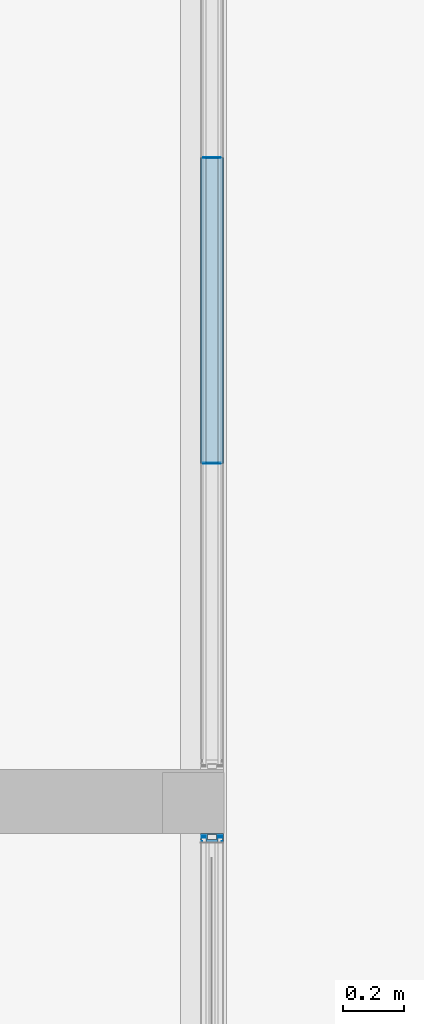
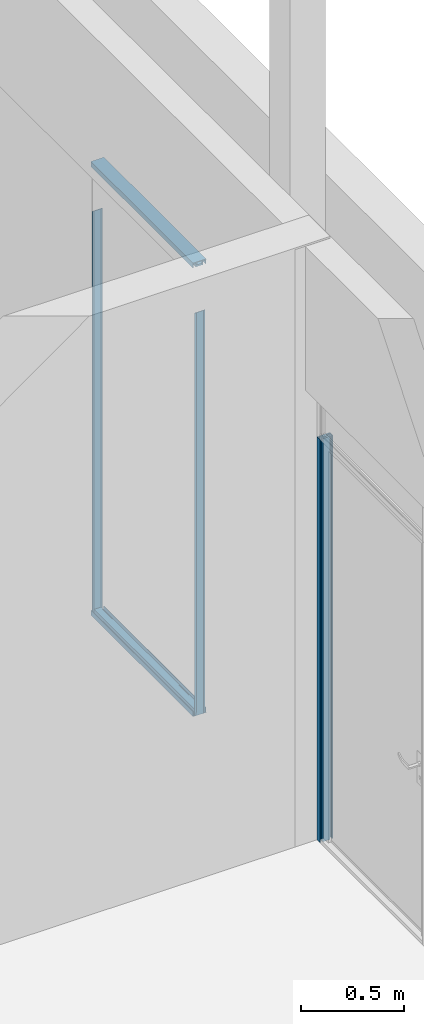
# One storey, part 13 of 65: 8 building element parts, 7 elements without a shape of their own.
"""IFC2X3 building model written with IfcOpenShell, lengths in millimetres."""

from ifc_helpers import new_model, entity, si_unit, converted_unit, derived_unit, money_unit, direction, frame, origin_with_axes, place, context, subcontext, project, spatial, faceted_brep, source, transform, mapped, material, type_object, element, aggregate, save


model = new_model("IFC2X3")

# Units and contexts
model_context = context("Model", 3, precision=0.01, world=origin_with_axes(), true_north=direction((0.0, 1.0)))
body_context = subcontext(model_context, "Body", "Model", "MODEL_VIEW")
ifc_project = project(units=[si_unit("LENGTHUNIT", "METRE", prefix="MILLI"), si_unit("AREAUNIT", "SQUARE_METRE"), si_unit("VOLUMEUNIT", "CUBIC_METRE"), converted_unit("PLANEANGLEUNIT", "DEGREE", entity("IfcPlaneAngleMeasure", 0.0174532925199), si_unit("PLANEANGLEUNIT", "RADIAN"), dimensions=[0, 0, 0, 0, 0, 0, 0]), si_unit("SOLIDANGLEUNIT", "STERADIAN"), money_unit("EUR"), converted_unit("TIMEUNIT", "Year", entity("IfcTimeMeasure", 31556926.0), si_unit("TIMEUNIT", "SECOND"), dimensions=[0, 0, 1, 0, 0, 0, 0]), si_unit("MASSUNIT", "GRAM", prefix="KILO"), si_unit("THERMODYNAMICTEMPERATUREUNIT", "DEGREE_CELSIUS"), si_unit("LUMINOUSINTENSITYUNIT", "LUMEN"), si_unit("ENERGYUNIT", "JOULE", prefix="MEGA"), derived_unit("THERMALCONDUCTANCEUNIT", [(si_unit("POWERUNIT", "WATT"), 1), (si_unit("LENGTHUNIT", "METRE"), -1), (si_unit("THERMODYNAMICTEMPERATUREUNIT", "KELVIN"), -1)]), derived_unit("SPECIFICHEATCAPACITYUNIT", [(si_unit("ENERGYUNIT", "JOULE"), 1), (si_unit("MASSUNIT", "GRAM", prefix="KILO"), -1), (si_unit("THERMODYNAMICTEMPERATUREUNIT", "KELVIN"), -1)]), derived_unit("MASSDENSITYUNIT", [(si_unit("MASSUNIT", "GRAM", prefix="KILO"), 1), (si_unit("VOLUMEUNIT", "CUBIC_METRE"), -1)])], contexts=[model_context])

# Site, building, storey
site_placement = place(None, origin_with_axes())
site = spatial("IfcSite", under=ifc_project, at=site_placement, Name="Puškini 31, Narva", CompositionType="ELEMENT")
building_placement = place(site_placement, origin_with_axes())
building = spatial("IfcBuilding", under=site, at=building_placement, Name="Narva Riigigümnaasium", CompositionType="ELEMENT")
storey_placement = place(building_placement, frame((0.0, 0.0, -1320.0), z_axis=(0.0, 0.0, 1.0), x_axis=(1.0, 0.0, 0.0)))
storey = spatial("IfcBuildingStorey", under=building, at=storey_placement, Name="1.korrus -1.32", CompositionType="ELEMENT", Elevation=-1320.0)

# Curtain wall, members, building element parts
curtain_wall_type = type_object("IfcCurtainWallType", Name="Curtain Wall Type", PredefinedType="NOTDEFINED")
curtain_wall_1_placement = place(storey_placement, frame((30362.9999988, 168706.249936, -1.99739158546e-06), z_axis=(0.0, 0.0, 1.0), x_axis=(1.0, 0.0, 0.0)))
curtain_wall_1 = element("IfcCurtainWall", 1, at=curtain_wall_1_placement, inside=storey, type_object=curtain_wall_type, Name="G-SKLF-05")
member_type_1 = type_object("IfcMemberType", Name="Siseklaasfassaad - Raam n2htamatu 3 x 29", PredefinedType="MULLION")
member_1_placement = place(curtain_wall_1_placement, frame((0.0, -498.75, 0.0), z_axis=(0.0, 0.0, 1.0), x_axis=(0.0, -1.0, 0.0)))
member_1 = element("IfcMember", 2, at=member_1_placement, type_object=member_type_1, Name="G-SKLF-05-klaasidevaheline tihend", ObjectType="MULLION")
ifc_material_1 = material(Name="Klaas")
shared_shape_1 = source(origin_with_axes(), body_context, "Body", "Brep", [
    faceted_brep([(-1.50001386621, 20.0064497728, 30.0000193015), (-1.5000138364, 20.0064497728, 2400.0000456), (-1.5000138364, 29.0064496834, 2400.0000456), (-1.50001386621, 29.0064496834, 30.0000193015), (0.0, 20.0064497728, 0.0), (1.49998613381, 20.0064497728, 30.0000193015), (1.4999861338, 20.0064497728, 2400.0000456), (1.4999861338, 29.0064496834, 2400.0000456), (0.0, 29.0064496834, 0.0), (1.49998613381, 29.0064496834, 30.0000193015)], [[[0, 1, 2, 3]], [[4, 5, 6, 1, 0]], [[1, 6, 7, 2]], [[8, 3, 2, 7, 9]], [[8, 4, 0, 3]], [[9, 5, 4, 8]], [[9, 7, 6, 5]]]),
    faceted_brep([(-1.50001386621, -28.9935503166, 30.0000193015), (-1.5000138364, -28.9935503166, 2400.0000456), (-1.5000138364, -19.993550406, 2400.0000456), (-1.50001386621, -19.993550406, 30.0000193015), (0.0, -28.9935503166, 0.0), (1.49998613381, -28.9935503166, 30.0000193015), (1.4999861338, -28.9935503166, 2400.0000456), (1.4999861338, -19.993550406, 2400.0000456), (0.0, -19.993550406, 0.0), (1.49998613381, -19.993550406, 30.0000193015)], [[[0, 1, 2, 3]], [[4, 5, 6, 1, 0]], [[6, 7, 2, 1]], [[8, 3, 2, 7, 9]], [[8, 4, 0, 3]], [[9, 5, 4, 8]], [[9, 7, 6, 5]]]),
])
building_element_part_1_placement = place(member_1_placement, origin_with_axes())
building_element_part_1 = element("IfcBuildingElementPart", 3, at=building_element_part_1_placement, material=ifc_material_1, Name="Klaas", context=body_context, shape_type="MappedRepresentation", body=[
    mapped(shared_shape_1, transform((0.0, 0.0, 0.0), x_axis=(-1.0, 0.0, 0.0), y_axis=(0.0, -1.0, 0.0), z_axis=(0.0, 0.0, 1.0))),
])
member_2_placement = place(curtain_wall_1_placement, frame((0.0, 498.75, 0.0), z_axis=(0.0, 0.0, 1.0), x_axis=(0.0, -1.0, 0.0)))
member_2 = element("IfcMember", 4, at=member_2_placement, type_object=member_type_1, Name="G-SKLF-05-klaasidevaheline tihend", ObjectType="MULLION")
building_element_part_2_placement = place(member_2_placement, origin_with_axes())
building_element_part_2 = element("IfcBuildingElementPart", 5, at=building_element_part_2_placement, material=ifc_material_1, Name="Klaas", context=body_context, shape_type="MappedRepresentation", body=[
    mapped(shared_shape_1, transform((0.0, 0.0, 0.0), x_axis=(-1.0, 0.0, 0.0), y_axis=(0.0, -1.0, 0.0), z_axis=(0.0, 0.0, 1.0))),
])
ifc_material_2 = material(Name="VKR-06_Õhkvahe")
shared_shape_2 = source(origin_with_axes(), body_context, "Body", "Brep", [
    faceted_brep([(-1.50001386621, -19.9935503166, 30.0000193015), (-1.5000138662, -19.9935503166, 2400.0000456), (-1.5000138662, 20.0064496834, 2400.0000456), (-1.50001386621, 20.0064496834, 30.0000193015), (0.0, -19.9935503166, 0.0), (1.49998613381, -19.9935503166, 30.0000193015), (1.4999861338, -19.9935503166, 2400.0000456), (1.4999861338, 20.0064496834, 2400.0000456), (0.0, 20.0064496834, 0.0), (1.49998613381, 20.0064496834, 30.0000193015)], [[[0, 1, 2, 3]], [[4, 5, 6, 1, 0]], [[6, 7, 2, 1]], [[8, 3, 2, 7, 9]], [[8, 4, 0, 3]], [[9, 5, 4, 8]], [[9, 7, 6, 5]]]),
])
building_element_part_3_placement = place(member_1_placement, origin_with_axes())
building_element_part_3 = element("IfcBuildingElementPart", 6, at=building_element_part_3_placement, material=ifc_material_2, Name="VKR-06_Õhkvahe", context=body_context, shape_type="MappedRepresentation", body=[
    mapped(shared_shape_2, transform((0.0, 0.0, 0.0), x_axis=(-1.0, 0.0, 0.0), y_axis=(0.0, -1.0, 0.0), z_axis=(0.0, 0.0, 1.0))),
])
aggregate(member_1, [building_element_part_1, building_element_part_3])
building_element_part_4_placement = place(member_2_placement, origin_with_axes())
building_element_part_4 = element("IfcBuildingElementPart", 7, at=building_element_part_4_placement, material=ifc_material_2, Name="VKR-06_Õhkvahe", context=body_context, shape_type="MappedRepresentation", body=[
    mapped(shared_shape_2, transform((0.0, 0.0, 0.0), x_axis=(-1.0, 0.0, 0.0), y_axis=(0.0, -1.0, 0.0), z_axis=(0.0, 0.0, 1.0))),
])
aggregate(member_2, [building_element_part_2, building_element_part_4])
member_type_2 = type_object("IfcMemberType", Name="Boundary Frame 30 x 37", PredefinedType="MULLION")
member_3_placement = place(curtain_wall_1_placement, frame((0.0, -498.75, 2700.00009054), z_axis=(0.0, 1.0, 0.0), x_axis=(0.0, 0.0, 1.0)))
member_3 = element("IfcMember", 8, at=member_3_placement, type_object=member_type_2, Name="G-SKLF-13-raam", ObjectType="MULLION")
ifc_material_3 = material(Name="Teras RAL7012")
shared_shape_3 = source(origin_with_axes(), body_context, "Body", "Brep", [
    faceted_brep([(29.5999996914, -17.0000000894, 1.47998535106), (29.5999996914, -17.0000000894, 996.019987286), (0.0, -17.0000000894, 997.5), (0.0, -17.0000000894, 0.0), (29.5999996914, 17.0000000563, 1.47998535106), (29.5999996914, 17.0000000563, 996.019987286), (0.0, 17.0000000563, 997.5), (1.9999999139, 15.0000001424, 997.399999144), (18.7999996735, 15.0000001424, 996.559991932), (18.7999996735, -15.0000001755, 996.559991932), (1.9999999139, -15.0000001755, 997.399999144), (0.0, 17.0000000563, 0.0), (1.9999999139, 15.0000001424, 0.0999990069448), (1.9999999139, -15.0000001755, 0.0999990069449), (18.7999996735, -15.0000001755, 0.939990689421), (18.7999996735, 15.0000001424, 0.939990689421)], [[[0, 1, 2, 3]], [[4, 5, 1, 0]], [[2, 1, 5, 6], [7, 8, 9, 10]], [[3, 2, 6, 11]], [[3, 11, 4, 0], [12, 13, 14, 15]], [[11, 6, 5, 4]], [[15, 8, 7, 12]], [[14, 9, 8, 15]], [[13, 10, 9, 14]], [[12, 7, 10, 13]]]),
    faceted_brep([(29.5999996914, 17.0000000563, 1.47998535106), (29.5999996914, 17.0000000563, 996.019987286), (0.0, 17.0, 997.5), (0.0, 17.0, 0.0), (30.0000193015, 17.0, 1.49998613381), (30.0000193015, 17.0, 995.999986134), (30.0000193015, 20.0, 995.999986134), (13.8499999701, 20.000000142, 996.807494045), (7.49999999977, 20.0, 997.124996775), (7.49999999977, 34.0161444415, 997.124996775), (13.8499999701, 34.0161444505, 996.807494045), (24.987414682, 34.0161444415, 996.25061852), (28.5126239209, 34.0161444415, 996.074356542), (30.0000193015, 34.0161444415, 995.999986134), (30.0000193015, 37.0, 995.999986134), (0.0, 37.0, 997.5), (0.0, 37.0, 0.0), (30.0000193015, 37.0, 1.49998613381), (30.0000193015, 34.0161444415, 1.49998613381), (28.5126239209, 34.0161444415, 1.42561710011), (24.987414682, 34.0161444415, 1.24935838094), (13.8499999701, 34.0161444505, 0.69249315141), (7.49999999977, 34.0161444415, 0.374996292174), (7.49999999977, 20.0, 0.374996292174), (13.8499999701, 20.000000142, 0.69249315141), (30.0000193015, 20.0, 1.49998613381)], [[[0, 1, 2, 3]], [[4, 5, 1, 0]], [[2, 1, 5, 6, 7, 8, 9, 10, 11, 12, 13, 14, 15]], [[3, 2, 15, 16]], [[3, 16, 17, 18, 19, 20, 21, 22, 23, 24, 25, 4, 0]], [[25, 6, 5, 4]], [[24, 7, 6, 25]], [[23, 8, 7, 24]], [[22, 9, 8, 23]], [[21, 10, 9, 22]], [[20, 11, 10, 21]], [[19, 12, 11, 20]], [[18, 13, 12, 19]], [[17, 14, 13, 18]], [[16, 15, 14, 17]]]),
    faceted_brep([(0.0, -37.0, 0.0), (0.0, -37.0, 997.5), (0.0, -17.0, 997.5), (0.0, -17.0, 0.0), (30.0000193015, -37.0, 1.49998613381), (30.0000193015, -37.0, 995.999986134), (30.0000193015, -34.0161444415, 995.999986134), (28.5126239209, -34.0161444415, 996.074356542), (24.987414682, -34.0161444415, 996.25061852), (13.8499999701, -34.0161445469, 996.807494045), (7.49999999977, -34.0161444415, 997.124996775), (7.49999999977, -20.0, 997.124996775), (13.8499999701, -19.9999997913, 996.807494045), (30.0000193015, -20.0, 995.999986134), (30.0000193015, -17.0, 995.999986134), (29.5999996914, -17.0000000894, 996.019987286), (29.5999996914, -17.0000000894, 1.47998535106), (30.0000193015, -17.0, 1.49998613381), (30.0000193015, -20.0, 1.49998613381), (13.8499999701, -19.9999997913, 0.69249315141), (7.49999999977, -20.0, 0.374996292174), (7.49999999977, -34.0161444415, 0.374996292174), (13.8499999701, -34.0161445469, 0.69249315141), (24.987414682, -34.0161444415, 1.24935838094), (28.5126239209, -34.0161444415, 1.42561710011), (30.0000193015, -34.0161444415, 1.49998613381)], [[[0, 1, 2, 3]], [[4, 5, 1, 0]], [[2, 1, 5, 6, 7, 8, 9, 10, 11, 12, 13, 14, 15]], [[3, 2, 15, 16]], [[3, 16, 17, 18, 19, 20, 21, 22, 23, 24, 25, 4, 0]], [[25, 6, 5, 4]], [[24, 7, 6, 25]], [[23, 8, 7, 24]], [[22, 9, 8, 23]], [[21, 10, 9, 22]], [[20, 11, 10, 21]], [[19, 12, 11, 20]], [[18, 13, 12, 19]], [[17, 14, 13, 18]], [[16, 15, 14, 17]]]),
])
building_element_part_5_placement = place(member_3_placement, origin_with_axes())
building_element_part_5 = element("IfcBuildingElementPart", 9, at=building_element_part_5_placement, material=ifc_material_3, Name="Teras RAL7012", context=body_context, shape_type="MappedRepresentation", body=[
    mapped(shared_shape_3, transform((0.0, 0.0, 0.0), x_axis=(-1.0, 0.0, 0.0), y_axis=(0.0, -1.0, 0.0), z_axis=(0.0, 0.0, 1.0))),
])
aggregate(member_3, [building_element_part_5])
member_4_placement = place(curtain_wall_1_placement, frame((0.0, -498.75, 0.0), z_axis=(0.0, 1.0, 0.0), x_axis=(0.0, 0.0, 1.0)))
member_4 = element("IfcMember", 10, at=member_4_placement, type_object=member_type_2, Name="G-SKLF-06-raam", ObjectType="MULLION")
aggregate(curtain_wall_1, [member_1, member_3, member_4, member_2])
shared_shape_4 = source(origin_with_axes(), body_context, "Body", "Brep", [
    faceted_brep([(-29.5999996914, -17.0000000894, 1.47998535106), (0.0, -17.0000000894, 0.0), (0.0, -17.0000000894, 997.5), (-29.5999996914, -17.0000000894, 996.019987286), (-29.5999996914, 17.0000000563, 1.47998535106), (0.0, 17.0000000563, 0.0), (-1.9999999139, 15.0000001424, 0.0999990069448), (-18.7999996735, 15.0000001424, 0.939990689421), (-18.7999996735, -15.0000001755, 0.939990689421), (-1.9999999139, -15.0000001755, 0.0999990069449), (0.0, 17.0000000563, 997.5), (-29.5999996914, 17.0000000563, 996.019987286), (-1.9999999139, 15.0000001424, 997.399999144), (-1.9999999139, -15.0000001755, 997.399999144), (-18.7999996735, -15.0000001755, 996.559991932), (-18.7999996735, 15.0000001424, 996.559991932)], [[[0, 1, 2, 3]], [[1, 0, 4, 5], [6, 7, 8, 9]], [[1, 5, 10, 2]], [[2, 10, 11, 3], [12, 13, 14, 15]], [[4, 0, 3, 11]], [[5, 4, 11, 10]], [[7, 6, 12, 15]], [[8, 7, 15, 14]], [[9, 8, 14, 13]], [[6, 9, 13, 12]]]),
    faceted_brep([(-29.5999996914, 17.0000000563, 1.47998535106), (0.0, 17.0, 0.0), (0.0, 17.0, 997.5), (-29.5999996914, 17.0000000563, 996.019987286), (-30.0000193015, 17.0, 1.49998613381), (-30.0000193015, 20.0, 1.49998613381), (-13.8499999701, 20.000000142, 0.69249315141), (-7.49999999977, 20.0, 0.374996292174), (-7.49999999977, 34.0161444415, 0.374996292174), (-13.8499999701, 34.0161444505, 0.69249315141), (-24.987414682, 34.0161444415, 1.24935838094), (-28.5126239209, 34.0161444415, 1.42561710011), (-30.0000193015, 34.0161444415, 1.49998613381), (-30.0000193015, 37.0, 1.49998613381), (0.0, 37.0, 0.0), (0.0, 37.0, 997.5), (-30.0000193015, 37.0, 995.999986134), (-30.0000193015, 34.0161444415, 995.999986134), (-28.5126239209, 34.0161444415, 996.074356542), (-24.987414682, 34.0161444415, 996.25061852), (-13.8499999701, 34.0161444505, 996.807494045), (-7.49999999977, 34.0161444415, 997.124996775), (-7.49999999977, 20.0, 997.124996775), (-13.8499999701, 20.000000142, 996.807494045), (-30.0000193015, 20.0, 995.999986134), (-30.0000193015, 17.0, 995.999986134)], [[[0, 1, 2, 3]], [[1, 0, 4, 5, 6, 7, 8, 9, 10, 11, 12, 13, 14]], [[1, 14, 15, 2]], [[2, 15, 16, 17, 18, 19, 20, 21, 22, 23, 24, 25, 3]], [[4, 0, 3, 25]], [[5, 4, 25, 24]], [[6, 5, 24, 23]], [[7, 6, 23, 22]], [[8, 7, 22, 21]], [[9, 8, 21, 20]], [[10, 9, 20, 19]], [[11, 10, 19, 18]], [[12, 11, 18, 17]], [[13, 12, 17, 16]], [[14, 13, 16, 15]]]),
    faceted_brep([(0.0, -37.0, 0.0), (0.0, -17.0, 0.0), (0.0, -17.0, 997.5), (0.0, -37.0, 997.5), (-30.0000193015, -37.0, 1.49998613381), (-30.0000193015, -34.0161444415, 1.49998613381), (-28.5126239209, -34.0161444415, 1.42561710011), (-24.987414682, -34.0161444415, 1.24935838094), (-13.8499999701, -34.0161445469, 0.69249315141), (-7.49999999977, -34.0161444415, 0.374996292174), (-7.49999999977, -20.0, 0.374996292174), (-13.8499999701, -19.9999997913, 0.69249315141), (-30.0000193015, -20.0, 1.49998613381), (-30.0000193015, -17.0, 1.49998613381), (-29.5999996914, -17.0000000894, 1.47998535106), (-29.5999996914, -17.0000000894, 996.019987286), (-30.0000193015, -17.0, 995.999986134), (-30.0000193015, -20.0, 995.999986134), (-13.8499999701, -19.9999997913, 996.807494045), (-7.49999999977, -20.0, 997.124996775), (-7.49999999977, -34.0161444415, 997.124996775), (-13.8499999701, -34.0161445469, 996.807494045), (-24.987414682, -34.0161444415, 996.25061852), (-28.5126239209, -34.0161444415, 996.074356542), (-30.0000193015, -34.0161444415, 995.999986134), (-30.0000193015, -37.0, 995.999986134)], [[[0, 1, 2, 3]], [[1, 0, 4, 5, 6, 7, 8, 9, 10, 11, 12, 13, 14]], [[1, 14, 15, 2]], [[2, 15, 16, 17, 18, 19, 20, 21, 22, 23, 24, 25, 3]], [[4, 0, 3, 25]], [[5, 4, 25, 24]], [[6, 5, 24, 23]], [[7, 6, 23, 22]], [[8, 7, 22, 21]], [[9, 8, 21, 20]], [[10, 9, 20, 19]], [[11, 10, 19, 18]], [[12, 11, 18, 17]], [[13, 12, 17, 16]], [[14, 13, 16, 15]]]),
])
building_element_part_6_placement = place(member_4_placement, origin_with_axes())
building_element_part_6 = element("IfcBuildingElementPart", 11, at=building_element_part_6_placement, material=ifc_material_3, Name="Teras RAL7012", context=body_context, shape_type="MappedRepresentation", body=[
    mapped(shared_shape_4, transform((0.0, 0.0, 0.0), x_axis=(-1.0, 0.0, 0.0), y_axis=(0.0, -1.0, 0.0), z_axis=(0.0, 0.0, 1.0))),
])
aggregate(member_4, [building_element_part_6])

# Curtain wall, member, building element parts
curtain_wall_2_placement = place(storey_placement, frame((30362.9999988, 164066.428557, -5.96047033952e-06), z_axis=(0.0, 0.0, 1.0), x_axis=(1.0, 0.0, 0.0)))
curtain_wall_2 = element("IfcCurtainWall", 12, at=curtain_wall_2_placement, inside=storey, type_object=curtain_wall_type, Name="G-SKLF-04")
member_5_placement = place(curtain_wall_2_placement, frame((0.0, 2933.57140851, 0.0), z_axis=(0.0, 0.0, 1.0), x_axis=(0.0, -1.0, 0.0)))
member_5 = element("IfcMember", 13, at=member_5_placement, type_object=member_type_2, Name="G-SKLF-25-raam", ObjectType="MULLION")
aggregate(curtain_wall_2, [member_5])
ifc_material_4 = material(Name="Klaasvill")
shared_shape_5 = source(origin_with_axes(), body_context, "Body", "Brep", [
    faceted_brep([(7.49999990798, 20.000000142, 0.0), (13.8499999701, 20.000000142, 0.0), (13.8499999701, 20.000000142, 2400.00001337), (7.49999990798, 20.000000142, 2400.00001337), (7.49999990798, 34.0161444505, 0.0), (13.8499999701, 34.0161444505, 0.0), (13.8499999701, 34.0161444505, 2400.00001337), (7.49999990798, 34.0161444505, 2400.00001337)], [[[0, 1, 2, 3]], [[0, 4, 5, 1]], [[1, 5, 6, 2]], [[3, 2, 6, 7]], [[4, 0, 3, 7]], [[5, 4, 7, 6]]]),
    faceted_brep([(24.987414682, 34.0161444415, 0.0), (25.004489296, 32.0307503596, 0.0), (25.004489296, 32.0307503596, 2400.00001337), (24.987414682, 34.0161444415, 2400.00001337), (28.5126239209, 34.0161444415, 0.0), (28.7655837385, 33.0385325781, 0.0), (28.4955493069, 32.0307503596, 0.0), (27.75780152, 31.2930025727, 0.0), (26.7500193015, 31.0229681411, 0.0), (25.742237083, 31.2930025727, 0.0), (25.742237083, 31.2930025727, 2400.00001337), (26.7500193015, 31.0229681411, 2400.00001337), (27.75780152, 31.2930025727, 2400.00001337), (28.4955493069, 32.0307503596, 2400.00001337), (28.7655837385, 33.0385325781, 2400.00001337), (28.5126239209, 34.0161444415, 2400.00001337)], [[[0, 1, 2, 3]], [[0, 4, 5, 6, 7, 8, 9, 1]], [[1, 9, 10, 2]], [[3, 2, 10, 11, 12, 13, 14, 15]], [[4, 0, 3, 15]], [[5, 4, 15, 14]], [[6, 5, 14, 13]], [[7, 6, 13, 12]], [[8, 7, 12, 11]], [[9, 8, 11, 10]]]),
    faceted_brep([(7.49999990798, -19.9999997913, 0.0), (7.49999990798, -34.0161445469, 0.0), (7.49999990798, -34.0161445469, 2400.00001337), (7.49999990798, -19.9999997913, 2400.00001337), (13.8499999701, -19.9999997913, 0.0), (13.8499999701, -34.0161445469, 0.0), (13.8499999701, -34.0161445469, 2400.00001337), (13.8499999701, -19.9999997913, 2400.00001337)], [[[0, 1, 2, 3]], [[0, 4, 5, 1]], [[1, 5, 6, 2]], [[3, 2, 6, 7]], [[4, 0, 3, 7]], [[5, 4, 7, 6]]]),
    faceted_brep([(25.004489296, -32.0307503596, 0.0), (24.987414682, -34.0161444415, 0.0), (24.987414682, -34.0161444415, 2400.00001337), (25.004489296, -32.0307503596, 2400.00001337), (25.742237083, -31.2930025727, 0.0), (26.7500193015, -31.0229681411, 0.0), (27.75780152, -31.2930025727, 0.0), (28.4955493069, -32.0307503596, 0.0), (28.7655837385, -33.0385325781, 0.0), (28.5126239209, -34.0161444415, 0.0), (28.5126239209, -34.0161444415, 2400.00001337), (28.7655837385, -33.0385325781, 2400.00001337), (28.4955493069, -32.0307503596, 2400.00001337), (27.75780152, -31.2930025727, 2400.00001337), (26.7500193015, -31.0229681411, 2400.00001337), (25.742237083, -31.2930025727, 2400.00001337)], [[[0, 1, 2, 3]], [[0, 4, 5, 6, 7, 8, 9, 1]], [[1, 9, 10, 2]], [[3, 2, 10, 11, 12, 13, 14, 15]], [[4, 0, 3, 15]], [[5, 4, 15, 14]], [[6, 5, 14, 13]], [[7, 6, 13, 12]], [[8, 7, 12, 11]], [[9, 8, 11, 10]]]),
])
building_element_part_7_placement = place(member_5_placement, origin_with_axes())
building_element_part_7 = element("IfcBuildingElementPart", 14, at=building_element_part_7_placement, material=ifc_material_4, Name="Klaasvill", context=body_context, shape_type="MappedRepresentation", body=[
    mapped(shared_shape_5, transform((0.0, 0.0, 0.0))),
])
shared_shape_6 = source(origin_with_axes(), body_context, "Body", "Brep", [
    faceted_brep([(0.0, -17.0000000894, 0.0), (29.5999996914, -17.0000000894, 0.0), (29.5999996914, -17.0000000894, 2400.00001337), (0.0, -17.0000000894, 2400.00001337), (0.0, 17.0000000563, 0.0), (29.5999996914, 17.0000000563, 0.0), (1.9999999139, 15.0000001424, 0.0), (1.9999999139, -15.0000001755, 0.0), (18.7999996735, -15.0000001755, 0.0), (18.7999996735, 15.0000001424, 0.0), (29.5999996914, 17.0000000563, 2400.00001337), (0.0, 17.0000000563, 2400.00001337), (1.9999999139, 15.0000001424, 2400.00001337), (18.7999996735, 15.0000001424, 2400.00001337), (18.7999996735, -15.0000001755, 2400.00001337), (1.9999999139, -15.0000001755, 2400.00001337)], [[[0, 1, 2, 3]], [[0, 4, 5, 1], [6, 7, 8, 9]], [[1, 5, 10, 2]], [[3, 2, 10, 11], [12, 13, 14, 15]], [[4, 0, 3, 11]], [[5, 4, 11, 10]], [[7, 6, 12, 15]], [[8, 7, 15, 14]], [[9, 8, 14, 13]], [[6, 9, 13, 12]]]),
    faceted_brep([(0.0, 17.0, 0.0), (29.5999996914, 17.0000000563, 0.0), (29.5999996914, 17.0000000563, 2400.00001337), (0.0, 17.0, 2400.00001337), (0.0, 37.0, 0.0), (30.0000193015, 37.0, 0.0), (30.0000193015, 34.0161444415, 0.0), (28.5126239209, 34.0161444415, 0.0), (24.987414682, 34.0161444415, 0.0), (13.8499999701, 34.0161444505, 0.0), (7.49999999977, 34.0161444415, 0.0), (7.49999999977, 20.0, 0.0), (13.8499999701, 20.000000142, 0.0), (30.0000193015, 20.0, 0.0), (30.0000193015, 17.0, 0.0), (30.0000193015, 17.0, 2400.00001337), (30.0000193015, 20.0, 2400.00001337), (13.8499999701, 20.000000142, 2400.00001337), (7.49999999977, 20.0, 2400.00001337), (7.49999999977, 34.0161444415, 2400.00001337), (13.8499999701, 34.0161444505, 2400.00001337), (24.987414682, 34.0161444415, 2400.00001337), (28.5126239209, 34.0161444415, 2400.00001337), (30.0000193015, 34.0161444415, 2400.00001337), (30.0000193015, 37.0, 2400.00001337), (0.0, 37.0, 2400.00001337)], [[[0, 1, 2, 3]], [[0, 4, 5, 6, 7, 8, 9, 10, 11, 12, 13, 14, 1]], [[1, 14, 15, 2]], [[3, 2, 15, 16, 17, 18, 19, 20, 21, 22, 23, 24, 25]], [[4, 0, 3, 25]], [[5, 4, 25, 24]], [[6, 5, 24, 23]], [[7, 6, 23, 22]], [[8, 7, 22, 21]], [[9, 8, 21, 20]], [[10, 9, 20, 19]], [[11, 10, 19, 18]], [[12, 11, 18, 17]], [[13, 12, 17, 16]], [[14, 13, 16, 15]]]),
    faceted_brep([(0.0, -17.0, 0.0), (0.0, -37.0, 0.0), (0.0, -37.0, 2400.00001337), (0.0, -17.0, 2400.00001337), (29.5999996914, -17.0000000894, 0.0), (30.0000193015, -17.0, 0.0), (30.0000193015, -20.0, 0.0), (13.8499999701, -19.9999997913, 0.0), (7.49999999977, -20.0, 0.0), (7.49999999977, -34.0161444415, 0.0), (13.8499999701, -34.0161445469, 0.0), (24.987414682, -34.0161444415, 0.0), (28.5126239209, -34.0161444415, 0.0), (30.0000193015, -34.0161444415, 0.0), (30.0000193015, -37.0, 0.0), (30.0000193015, -37.0, 2400.00001337), (30.0000193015, -34.0161444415, 2400.00001337), (28.5126239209, -34.0161444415, 2400.00001337), (24.987414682, -34.0161444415, 2400.00001337), (13.8499999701, -34.0161445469, 2400.00001337), (7.49999999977, -34.0161444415, 2400.00001337), (7.49999999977, -20.0, 2400.00001337), (13.8499999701, -19.9999997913, 2400.00001337), (30.0000193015, -20.0, 2400.00001337), (30.0000193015, -17.0, 2400.00001337), (29.5999996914, -17.0000000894, 2400.00001337)], [[[0, 1, 2, 3]], [[0, 4, 5, 6, 7, 8, 9, 10, 11, 12, 13, 14, 1]], [[1, 14, 15, 2]], [[3, 2, 15, 16, 17, 18, 19, 20, 21, 22, 23, 24, 25]], [[4, 0, 3, 25]], [[5, 4, 25, 24]], [[6, 5, 24, 23]], [[7, 6, 23, 22]], [[8, 7, 22, 21]], [[9, 8, 21, 20]], [[10, 9, 20, 19]], [[11, 10, 19, 18]], [[12, 11, 18, 17]], [[13, 12, 17, 16]], [[14, 13, 16, 15]]]),
])
building_element_part_8_placement = place(member_5_placement, origin_with_axes())
building_element_part_8 = element("IfcBuildingElementPart", 15, at=building_element_part_8_placement, material=ifc_material_3, Name="Teras RAL7012", context=body_context, shape_type="MappedRepresentation", body=[
    mapped(shared_shape_6, transform((0.0, 0.0, 0.0))),
])
aggregate(member_5, [building_element_part_7, building_element_part_8])

save(model, "model.ifc")
